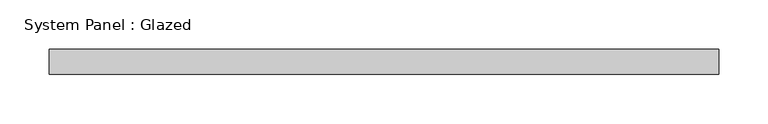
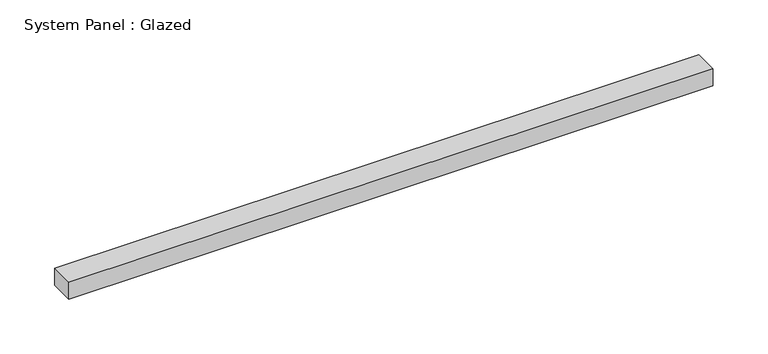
"""IFC4 building model written with IfcOpenShell, lengths in millimetres: plate geometry, System Panel : Glazed."""

from ifc_helpers import new_model, si_unit, origin, origin_with_axes, place, context, project, spatial, polyline, outline, extrude, source, transform, mapped, element, save


def system_panel_glazed_be2d1a8f(model_context):
    return source(origin(), model_context, "Body", "SweptSolid", [
        extrude(outline(polyline([(339.725, 19.05), (-339.725, 19.05), (-339.725, 44.45), (339.725, 44.45), (339.725, 19.05)])), origin_with_axes(), (0.0, 0.0, 1.0), 19.05),
    ])


if __name__ == "__main__":
    model = new_model("IFC4")
    model_context = context("Model", 3, world=origin())
    ifc_project = project(units=[si_unit("LENGTHUNIT", "METRE", prefix="MILLI")], contexts=[model_context])
    site = spatial("IfcSite", under=ifc_project)
    building = spatial("IfcBuilding", under=site)
    placement = place(None, origin())
    system_panel_glazed_shape = system_panel_glazed_be2d1a8f(model_context)
    element("IfcPlate", 1, ObjectType="System Panel : Glazed", at=placement, inside=building, context=model_context, shape_type="MappedRepresentation", body=[
        mapped(system_panel_glazed_shape, transform((0.0, 0.0, 0.0), x_axis=(1.0, 0.0, 0.0), y_axis=(0.0, 1.0, 0.0), z_axis=(0.0, 0.0, 1.0))),
    ])
    save(model, "model.ifc")
